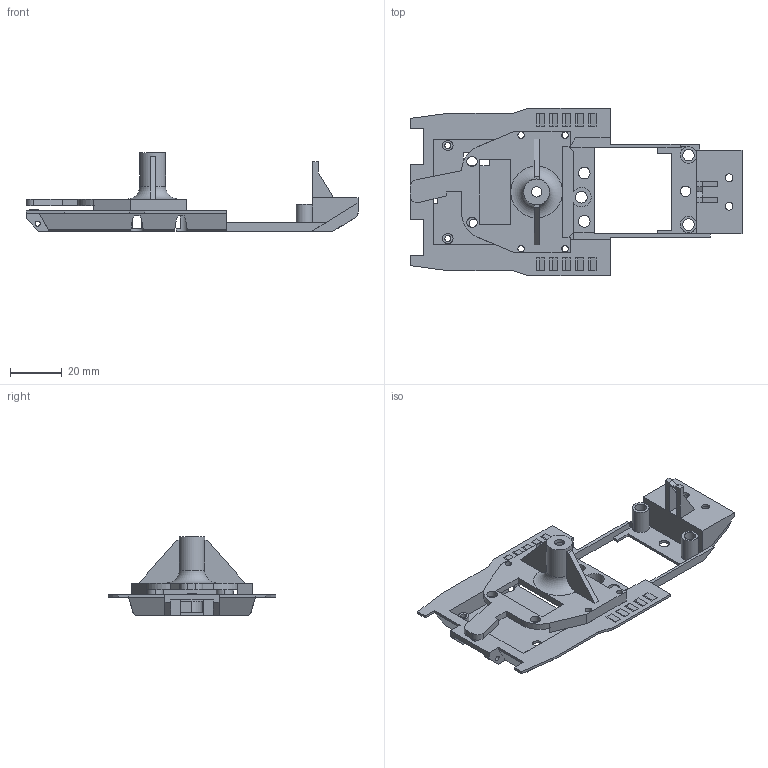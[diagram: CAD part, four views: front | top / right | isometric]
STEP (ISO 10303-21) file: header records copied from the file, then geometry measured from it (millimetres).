
FILE_DESCRIPTION(/* description */ (''),/* implementation_level */ '2;1');
FILE_NAME(/* name */ 'D:\Habi\Carrera\3D\Chassis\F1\Chassis_F1.stp',/* time_stamp */ '2021-01-10T11:31:32+01:00',/* author */ ('Habi'),/* organization */ (''),/* preprocessor_version */ 'ST-DEVELOPER v18',/* originating_system */ 'Autodesk Inventor 2020',/* authorisation */ '');
FILE_SCHEMA (('AUTOMOTIVE_DESIGN { 1 0 10303 214 3 1 1 }'));
Length unit declared in the file: millimetre
Products named in the file (3): Chassis_F1; Chassis_F1_neu; Karo_Halter
Assembly tree (2 placements, depth 2):
  Chassis_F1
    Chassis_F1_neu
    Karo_Halter
Bounding box: 128.5 x 65 x 30.5 mm (x, y, z)
Volume: 19511.7 mm3; surface area: 22264.4 mm2
Topology: 2 solids, 2 shells, 301 faces, 881 edges, 586 vertices
Faces by surface type: plane 241, cylinder 57, torus 2, cone 1
Full cylindrical faces by diameter (mm): 2 x2, 2.3 x2, 2.5 x4, 3 x6, 3.4 x1, 3.5 x1, 4 x6, 4.5 x5, 5 x4, 6 x2, 8 x1, 10 x1
Entity records: 10275 total; most frequent: CARTESIAN_POINT 1844, ORIENTED_EDGE 1768, DIRECTION 1684, EDGE_CURVE 884, LINE 688, VECTOR 688, VERTEX_POINT 586, AXIS2_PLACEMENT_3D 498
